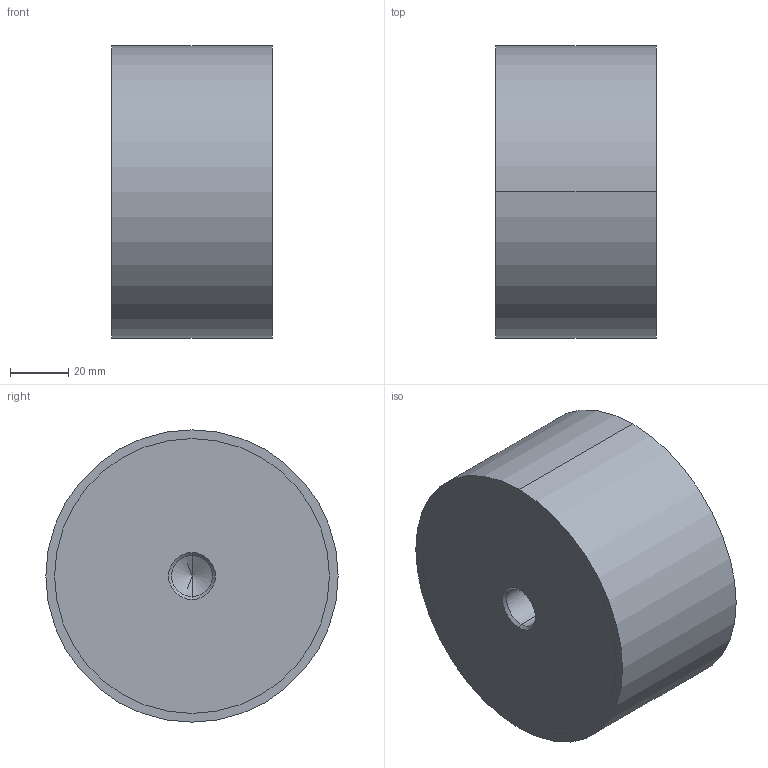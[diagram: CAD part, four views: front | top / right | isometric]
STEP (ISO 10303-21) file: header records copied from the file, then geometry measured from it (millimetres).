
FILE_DESCRIPTION (( 'STEP AP214' ), '1' );
FILE_NAME ('351-100-55-M16-EE-70.step', '2025-07-23T09:41:10', ( '' ), ( '' ), 'SwSTEP 2.0', 'SolidWorks 2022', '' );
FILE_SCHEMA (( 'AUTOMOTIVE_DESIGN' ));
Length unit declared in the file: millimetre
Products named in the file (1): 351-100-55-M16-EE-70
Bounding box: 55 x 100 x 100 mm (x, y, z)
Volume: 426002.4 mm3; surface area: 34526.8 mm2
Topology: 1 solids, 1 shells, 28 faces, 58 edges, 34 vertices
Faces by surface type: cylinder 14, cone 8, plane 6
Entity records: 844 total; most frequent: DIRECTION 144, CARTESIAN_POINT 117, ORIENTED_EDGE 108, AXIS2_PLACEMENT_3D 61, EDGE_CURVE 54, VERTEX_POINT 34, EDGE_LOOP 34, CIRCLE 32
